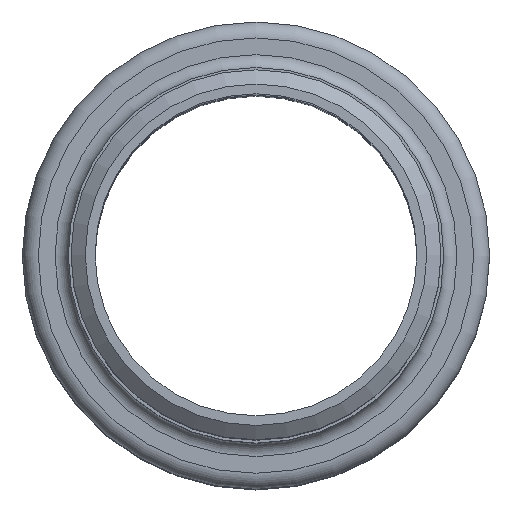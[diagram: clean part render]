
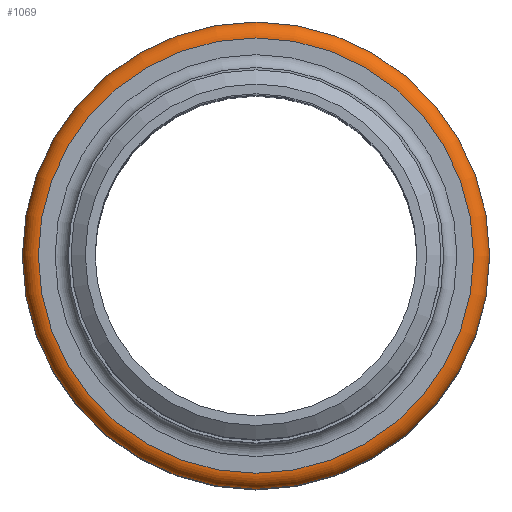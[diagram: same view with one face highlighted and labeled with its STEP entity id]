
A CAD part, top view. The second image highlights one B-rep face of the part: STEP entity #1069.
In plain terms, the highlighted toroidal (fillet/blend) face has major radius 35.49 mm and minor radius 2.61 mm.
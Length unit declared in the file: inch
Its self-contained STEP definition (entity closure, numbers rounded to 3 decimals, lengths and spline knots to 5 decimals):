
#45=TOROIDAL_SURFACE('',#1267,1.39725,0.10275);
#172=FACE_OUTER_BOUND('',#283,.T.);
#283=EDGE_LOOP('',(#826,#827,#828,#829));
#403=CIRCLE('',#1266,1.39725);
#404=CIRCLE('',#1268,1.39725);
#405=CIRCLE('',#1269,0.10275);
#492=VERTEX_POINT('',#1939);
#493=VERTEX_POINT('',#1942);
#607=EDGE_CURVE('',#492,#492,#403,.T.);
#608=EDGE_CURVE('',#493,#493,#404,.T.);
#609=EDGE_CURVE('',#493,#492,#405,.T.);
#826=ORIENTED_EDGE('',*,*,#608,.F.);
#827=ORIENTED_EDGE('',*,*,#609,.T.);
#828=ORIENTED_EDGE('',*,*,#607,.T.);
#829=ORIENTED_EDGE('',*,*,#609,.F.);
#1069=ADVANCED_FACE('',(#172),#45,.T.);
#1266=AXIS2_PLACEMENT_3D('',#1940,#1625,#1626);
#1267=AXIS2_PLACEMENT_3D('',#1941,#1627,#1628);
#1268=AXIS2_PLACEMENT_3D('',#1943,#1629,#1630);
#1269=AXIS2_PLACEMENT_3D('',#1944,#1631,#1632);
#1625=DIRECTION('center_axis',(0.,0.,
-1.));
#1626=DIRECTION('ref_axis',(1.,0.,0.));
#1627=DIRECTION('center_axis',(0.,0.,
-1.));
#1628=DIRECTION('ref_axis',(-1.,0.,0.));
#1629=DIRECTION('center_axis',(0.,0.,
-1.));
#1630=DIRECTION('ref_axis',(1.,0.,0.));
#1631=DIRECTION('center_axis',(0.,-1.,0.));
#1632=DIRECTION('ref_axis',(1.,0.,0.));
#1939=CARTESIAN_POINT('',(1.39725,0.,-1.58475));
#1940=CARTESIAN_POINT('Origin',(0.,0.,
-1.58475));
#1941=CARTESIAN_POINT('Origin',(0.,0.,
-1.6875));
#1942=CARTESIAN_POINT('',(1.39725,0.,-1.79025));
#1943=CARTESIAN_POINT('Origin',(0.,0.,
-1.79025));
#1944=CARTESIAN_POINT('Origin',(1.39725,0.,-1.6875));
